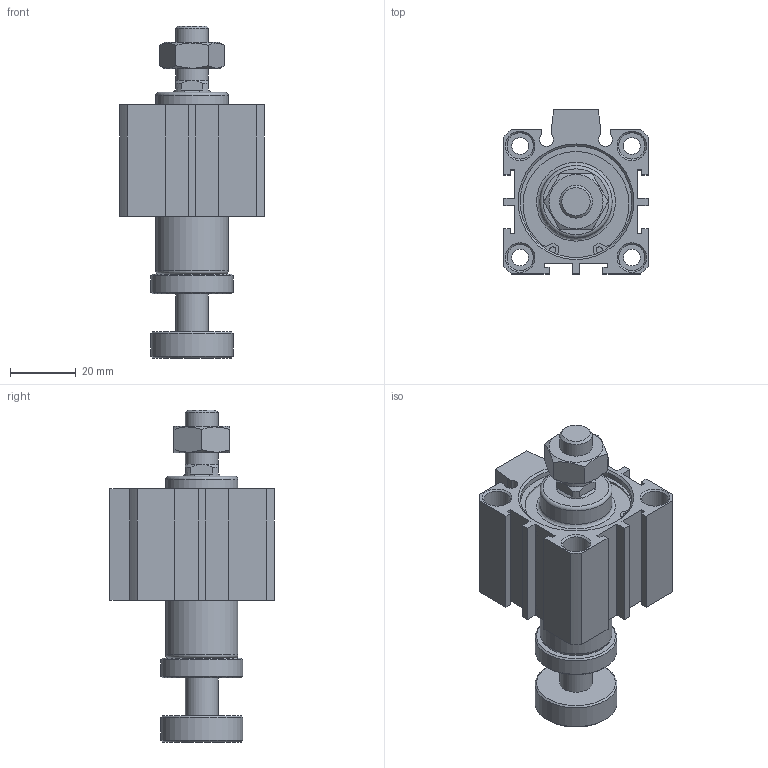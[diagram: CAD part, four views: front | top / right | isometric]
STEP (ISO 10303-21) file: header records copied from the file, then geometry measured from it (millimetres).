
FILE_DESCRIPTION((''),'2;1');
FILE_NAME('I:\3D電子目錄\氣缸\JDAR\JDAR-B\JDAR32-B\JDAR32x10-B.stp','2007-03-14T13:51:15',('662F206'),(''),'Autodesk Inventor 11','Autodesk Inventor 11','');
FILE_SCHEMA(('AUTOMOTIVE_DESIGN { 1 0 10303 214 1 1 1 1 }'));
Length unit declared in the file: millimetre
Products named in the file (3): JDAR32-B; R 形環 35
Assembly tree (3 placements, depth 2):
  JDAR32-B
    JDAR32-B
    R 形環 35  x2
Bounding box: 44 x 50 x 101.1 mm (x, y, z)
Volume: 72361.7 mm3; surface area: 23768.4 mm2
Topology: 3 solids, 3 shells, 180 faces, 421 edges, 273 vertices
Faces by surface type: plane 98, cylinder 53, cone 25, bspline 2, torus 2
Full cylindrical faces by diameter (mm): 1.9 x4, 2.2 x2, 5.1 x4, 8 x8, 10 x3, 22 x2, 25 x2, 34 x4, 36 x2
Entity records: 4639 total; most frequent: CARTESIAN_POINT 882, DIRECTION 784, ORIENTED_EDGE 664, EDGE_CURVE 332, AXIS2_PLACEMENT_3D 300, EDGE_LOOP 260, VERTEX_POINT 248, VECTOR 184
